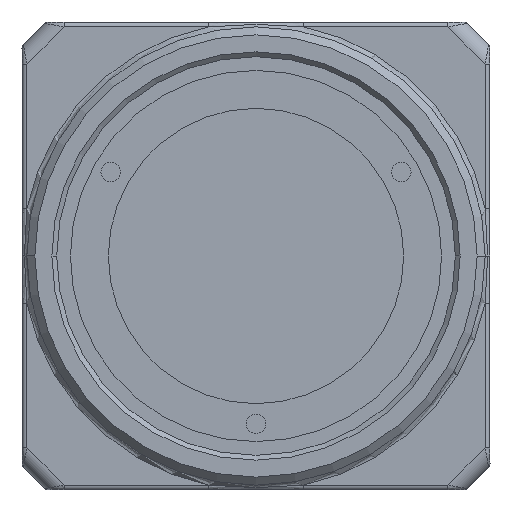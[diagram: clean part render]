
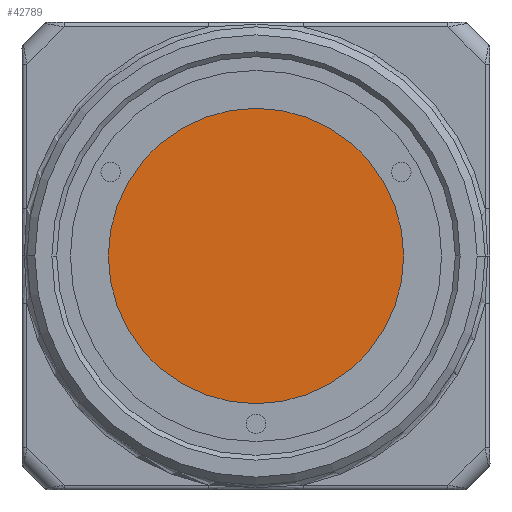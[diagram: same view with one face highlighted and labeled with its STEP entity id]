
A CAD part, left-side view. The second image highlights one B-rep face of the part: STEP entity #42789.
In plain terms, the highlighted planar face has unit normal (-1, 0, 0).
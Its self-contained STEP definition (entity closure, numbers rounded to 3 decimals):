
#11378=CARTESIAN_POINT('',(0.1,0.,0.));
#11379=DIRECTION('',(1.,0.,0.));
#11380=DIRECTION('',(0.,1.,0.));
#11381=AXIS2_PLACEMENT_3D('',#11378,#11379,#11380);
#11383=CARTESIAN_POINT('',(0.1,0.,0.));
#11384=DIRECTION('',(1.,0.,0.));
#11385=DIRECTION('',(0.,-1.,0.));
#11386=AXIS2_PLACEMENT_3D('',#11383,#11384,#11385);
#28822=CARTESIAN_POINT('',(0.1,9.15,0.));
#28823=CARTESIAN_POINT('',(0.1,-9.15,0.));
#28824=VERTEX_POINT('',#28822);
#28825=VERTEX_POINT('',#28823);
#42779=CARTESIAN_POINT('',(0.1,0.,0.));
#42780=DIRECTION('',(1.,0.,0.));
#42781=DIRECTION('',(0.,-1.,0.));
#42782=AXIS2_PLACEMENT_3D('',#42779,#42780,#42781);
#42783=PLANE('',#42782);
#42784=ORIENTED_EDGE('',*,*,#42769,.T.);
#42786=ORIENTED_EDGE('',*,*,#42785,.T.);
#42787=EDGE_LOOP('',(#42784,#42786));
#42788=FACE_OUTER_BOUND('',#42787,.F.);
#42789=ADVANCED_FACE('',(#42788),#42783,.F.);
#11382=CIRCLE('',#11381,9.15);
#11387=CIRCLE('',#11386,9.15);
#42769=EDGE_CURVE('',#28824,#28825,#11382,.T.);
#42785=EDGE_CURVE('',#28825,#28824,#11387,.T.);
